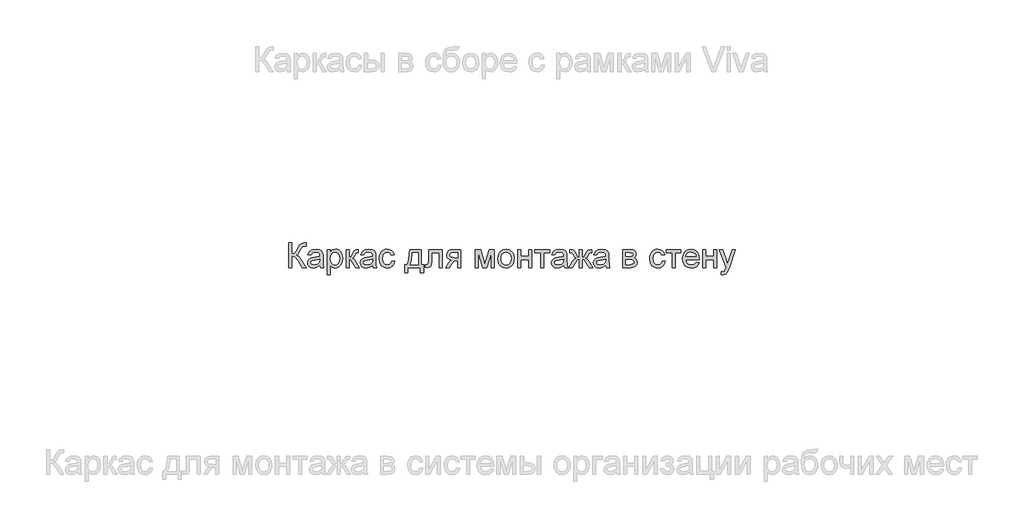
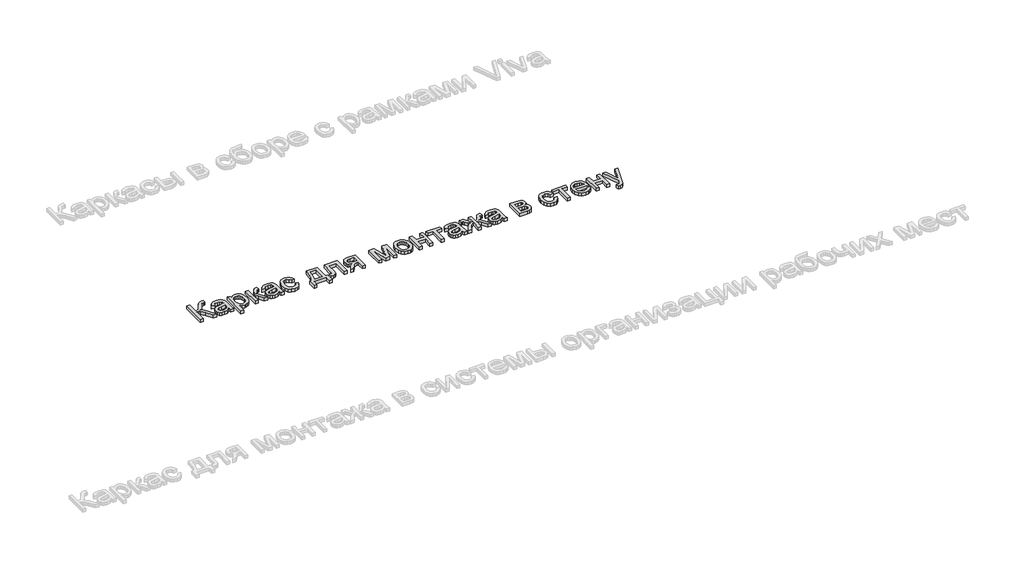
# One storey, part 46 of 48: 1 proxy.
"""IFC4 building model written with IfcOpenShell, lengths in millimetres."""

from ifc_helpers import new_model, si_unit, origin, origin_with_axes, place, context, project, spatial, polyline, outline, extrude, element, save

model = new_model("IFC4")

# Units and contexts
model_context = context("Model", 3, world=origin())
ifc_project = project(units=[si_unit("LENGTHUNIT", "METRE", prefix="MILLI")], contexts=[model_context])

# Site, building, storey
site = spatial("IfcSite", under=ifc_project)
building = spatial("IfcBuilding", under=site)
storey = spatial("IfcBuildingStorey", under=building, Name="Этаж 01", Elevation=0.0)

# Proxy
placement = place(None, origin())
element("IfcBuildingElementProxy", 1, Name="150 мм Arial", ObjectType="150 мм Arial", at=placement, inside=storey, context=model_context, shape_type="SweptSolid", body=[
    extrude(outline(polyline([(71634.1656145, 2806.4874824), (71653.0011727, 2806.4874824), (71653.0011727, 2740.5630288), (71665.7528823, 2741.8092291), (71674.0624169, 2745.5478299), (71688.7593026, 2770.7661406), (71699.151969, 2791.8273849), (71710.9241928, 2802.2568394), (71727.7547941, 2806.4874824), (71740.1156291, 2806.2667532), (71740.1156291, 2787.431195), (71735.9585626, 2787.5415596), (71731.8014961, 2787.6519242), (71717.0862162, 2783.1269757), (71705.9026036, 2763.7395945), (71692.5668813, 2740.1215704), (71679.5622527, 2732.3224721), (71694.1027886, 2723.8060039), (71708.4409894, 2706.0556977), (71740.1156291, 2655.8030171), (71718.2634386, 2655.8030171), (71691.4816294, 2698.2565994), (71672.6276771, 2720.4214896), (71663.9226694, 2724.9326426), (71653.0011727, 2726.4363602), (71653.0011727, 2655.8030171), (71634.1656145, 2655.8030171), (71634.1656145, 2806.4874824)])), origin_with_axes(), (0.0, 0.0, 1.0), 20.0),
    extrude(outline(polyline([(71824.8756408, 2669.9296858), (71806.6102998, 2657.1641805), (71786.4319723, 2653.4485724), (71770.6912215, 2655.6834555), (71759.079946, 2662.3881049), (71751.9200427, 2672.5692391), (71749.5334082, 2685.2335768), (71753.1386518, 2700.1327976), (71762.6116132, 2710.9485282), (71775.8001827, 2717.1289457), (71792.0973551, 2719.9616371), (71824.7652762, 2726.4363602), (71824.8756408, 2730.630215), (71823.5788568, 2739.0363185), (71819.6885047, 2744.5361544), (71810.9880955, 2748.6196445), (71798.8663838, 2749.9808079), (71779.8100964, 2746.3571703), (71770.7234111, 2733.4996945), (71751.887853, 2735.8541393), (71760.0364392, 2754.248239), (71776.4439762, 2765.0271815), (71801.2944049, 2768.8163661), (71824.1214827, 2765.4686399), (71837.0157467, 2757.0625363), (71842.791494, 2744.278637), (71843.711199, 2727.7975236), (71843.711199, 2704.3634405), (71844.6676922, 2671.640337), (71848.4200885, 2655.8030171), (71829.5845304, 2655.8030171), (71824.8756408, 2669.9296858)]), holes=[polyline([(71824.8756408, 2707.6008021), (71794.488588, 2701.8250547), (71778.2833861, 2698.7716342), (71770.9441403, 2693.8052272), (71768.3689664, 2686.5579519), (71773.9791668, 2676.3676207), (71790.4418861, 2672.2841305), (71809.4981734, 2676.790685), (71821.7854321, 2687.6983861), (71824.7652762, 2702.2665131), (71824.8756408, 2707.6008021)])]), origin_with_axes(), (0.0, 0.0, 1.0), 20.0),
    extrude(outline(polyline([(71869.6100914, 2613.4230113), (71869.6100914, 2766.4619213), (71888.4456496, 2766.4619213), (71888.4456496, 2747.9942451), (71901.4686722, 2763.6108358), (71919.0534316, 2768.8163661), (71931.7913457, 2766.9953502), (71942.9289731, 2761.5323026), (71951.9972643, 2752.758317), (71958.5271697, 2741.0044872), (71963.7878822, 2711.9785978), (71962.3025587, 2695.8699649), (71957.846588, 2681.4627863), (71950.5625245, 2669.4882274), (71940.5929224, 2660.6774536), (71928.9816469, 2655.2557927), (71916.7725632, 2653.4485724), (71900.3834203, 2658.2862206), (71888.4456496, 2670.5182969), (71888.4456496, 2613.4230113), (71869.6100914, 2613.4230113)]), holes=[polyline([(71888.4456496, 2710.2495524), (71890.4827961, 2693.3637688), (71896.5942358, 2681.5547568), (71905.6119432, 2674.6017871), (71916.367893, 2672.2841305), (71927.2985868, 2674.6845605), (71936.5462205, 2681.8858506), (71942.8507982, 2694.127124), (71944.9523241, 2711.647504), (71942.9013819, 2728.4413171), (71936.7485556, 2740.415876), (71927.7446437, 2747.5895749), (71917.1404452, 2749.9808079), (71906.49486, 2747.4378236), (71897.1460588, 2739.8088707), (71890.6207519, 2727.3330726), (71888.4456496, 2710.2495524)])]), origin_with_axes(), (0.0, 0.0, 1.0), 20.0),
    extrude(outline(polyline([(71984.9778851, 2766.4619213), (72003.8134433, 2766.4619213), (72003.8134433, 2719.3730259), (72016.4317957, 2722.7575403), (72026.7692798, 2742.4760152), (72035.3593244, 2759.4905575), (72042.9376935, 2765.0271815), (72056.7148742, 2766.4619213), (72060.3201177, 2766.4619213), (72060.3201177, 2747.5159985), (72055.2433462, 2747.6263631), (72046.0462963, 2745.6398004), (72039.5715732, 2733.2421771), (72031.97481, 2719.8328784), (72021.3246263, 2713.2661848), (72033.2072147, 2705.936136), (72044.869074, 2690.4942893), (72065.0290073, 2655.8030171), (72043.6182752, 2655.8030171), (72023.863012, 2689.7585253), (72013.9301982, 2704.1243172), (72003.8134433, 2707.6008021), (72003.8134433, 2655.8030171), (71984.9778851, 2655.8030171), (71984.9778851, 2766.4619213)])), origin_with_axes(), (0.0, 0.0, 1.0), 20.0),
    extrude(outline(polyline([(72147.4345742, 2669.9296858), (72129.1692331, 2657.1641805), (72108.9909057, 2653.4485724), (72093.2501548, 2655.6834555), (72081.6388794, 2662.3881049), (72074.478976, 2672.5692391), (72072.0923416, 2685.2335768), (72075.6975851, 2700.1327976), (72085.1705465, 2710.9485282), (72098.359116, 2717.1289457), (72114.6562884, 2719.9616371), (72147.3242096, 2726.4363602), (72147.4345742, 2730.630215), (72146.1377902, 2739.0363185), (72142.2474381, 2744.5361544), (72133.5470289, 2748.6196445), (72121.4253171, 2749.9808079), (72102.3690298, 2746.3571703), (72093.2823445, 2733.4996945), (72074.4467864, 2735.8541393), (72082.5953726, 2754.248239), (72099.0029095, 2765.0271815), (72123.8533383, 2768.8163661), (72146.6804161, 2765.4686399), (72159.57468, 2757.0625363), (72165.3504274, 2744.278637), (72166.2701324, 2727.7975236), (72166.2701324, 2704.3634405), (72167.2266255, 2671.640337), (72170.9790219, 2655.8030171), (72152.1434637, 2655.8030171), (72147.4345742, 2669.9296858)]), holes=[polyline([(72147.4345742, 2707.6008021), (72117.0475214, 2701.8250547), (72100.8423195, 2698.7716342), (72093.5030737, 2693.8052272), (72090.9278997, 2686.5579519), (72096.5381002, 2676.3676207), (72113.0008195, 2672.2841305), (72132.0571068, 2676.790685), (72144.3443654, 2687.6983861), (72147.3242096, 2702.2665131), (72147.4345742, 2707.6008021)])]), origin_with_axes(), (0.0, 0.0, 1.0), 20.0),
    extrude(outline(polyline([(72262.8023679, 2695.8285782), (72281.637926, 2693.4741334), (72276.3864106, 2676.7217071), (72266.517976, 2664.0619679), (72252.9615245, 2656.1019213), (72236.645958, 2653.4485724), (72216.6101849, 2657.1503849), (72200.9430104, 2668.2558227), (72190.8308541, 2686.2774419), (72187.4601353, 2710.727799), (72188.8994736, 2727.4894224), (72193.2174885, 2742.0161627), (72200.4831579, 2753.7469998), (72210.7654597, 2762.1209137), (72223.0665139, 2767.142503), (72236.3884406, 2768.8163661), (72252.3039355, 2766.5171036), (72265.028054, 2759.6193162), (72274.156126, 2748.4908858), (72279.2834813, 2733.4996945), (72260.4479231, 2731.1452498), (72251.7107257, 2745.2535243), (72236.5355934, 2749.9808079), (72224.3632979, 2747.6539543), (72214.701797, 2740.6733934), (72208.3972193, 2728.6620463), (72206.2956934, 2711.2428338), (72208.3512341, 2693.5890966), (72214.517856, 2681.5363627), (72224.004613, 2674.5971886), (72236.0205586, 2672.2841305), (72245.77403, 2673.7280674), (72253.7708649, 2678.0598778), (72259.587999, 2685.3899266), (72262.8023679, 2695.8285782)])), origin_with_axes(), (0.0, 0.0, 1.0), 20.0),
    extrude(outline(polyline([(72373.461272, 2766.4619213), (72444.0946151, 2766.4619213), (72444.0946151, 2674.6385753), (72458.2212837, 2674.6385753), (72458.2212837, 2625.1952351), (72439.3857256, 2625.1952351), (72439.3857256, 2655.8030171), (72361.6890482, 2655.8030171), (72361.6890482, 2625.1952351), (72342.85349, 2625.1952351), (72342.85349, 2674.6385753), (72354.6257139, 2674.6385753), (72363.1835688, 2690.1034147), (72369.1754468, 2710.5622521), (72373.461272, 2766.4619213)]), holes=[polyline([(72389.9423854, 2747.6263631), (72385.5278015, 2704.7129284), (72375.8157168, 2674.6385753), (72425.259057, 2674.6385753), (72425.259057, 2747.6263631), (72389.9423854, 2747.6263631)])]), origin_with_axes(), (0.0, 0.0, 1.0), 20.0),
    extrude(outline(polyline([(72488.8290657, 2766.4619213), (72573.5890774, 2766.4619213), (72573.5890774, 2655.9133817), (72554.7535193, 2655.9133817), (72554.7535193, 2747.6263631), (72507.6646239, 2747.6263631), (72507.6646239, 2694.8352968), (72506.395431, 2670.4815087), (72499.4240672, 2660.199207), (72482.9429538, 2655.8030171), (72467.6390628, 2656.7595103), (72467.6390628, 2674.6385753), (72476.0635605, 2674.6385753), (72484.5800287, 2675.7974036), (72487.9829371, 2679.4762235), (72488.8290657, 2695.9021546), (72488.8290657, 2766.4619213)])), origin_with_axes(), (0.0, 0.0, 1.0), 20.0),
    extrude(outline(polyline([(72686.6024263, 2766.4619213), (72686.6024263, 2655.8030171), (72667.7668682, 2655.8030171), (72667.7668682, 2698.183023), (72657.5029605, 2698.183023), (72643.5234447, 2695.79179), (72630.3900575, 2679.7153468), (72615.3804721, 2655.8030171), (72593.601858, 2655.8030171), (72612.5109925, 2686.0429171), (72620.8619138, 2696.895436), (72628.5506475, 2701.7146901), (72615.6747777, 2705.6602245), (72606.6248806, 2713.1558202), (72601.2721976, 2723.1254223), (72599.4879699, 2734.4929759), (72601.9251881, 2747.3872398), (72609.2368428, 2757.5959652), (72621.1654164, 2764.2454323), (72637.4533918, 2766.4619213), (72686.6024263, 2766.4619213)]), holes=[polyline([(72667.7668682, 2747.6263631), (72642.9348335, 2747.6263631), (72630.1095475, 2746.5365127), (72622.8300825, 2743.2669615), (72618.323528, 2733.0582361), (72619.9835955, 2725.8799387), (72624.963798, 2720.8997362), (72648.4898516, 2717.0185811), (72667.7668682, 2717.0185811), (72667.7668682, 2747.6263631)])]), origin_with_axes(), (0.0, 0.0, 1.0), 20.0),
    extrude(outline(polyline([(72773.7168828, 2766.4619213), (72806.1272866, 2766.4619213), (72831.106474, 2677.8759369), (72858.0354361, 2766.4619213), (72889.0846765, 2766.4619213), (72889.0846765, 2655.8030171), (72870.2491183, 2655.8030171), (72870.2491183, 2744.9040364), (72843.1730035, 2655.8030171), (72818.4513334, 2655.8030171), (72792.5524409, 2749.1714675), (72792.5524409, 2655.8030171), (72773.7168828, 2655.8030171), (72773.7168828, 2766.4619213)])), origin_with_axes(), (0.0, 0.0, 1.0), 20.0),
    extrude(outline(polyline([(72912.6291242, 2711.1324692), (72916.7034173, 2737.8131109), (72928.9262966, 2756.5658956), (72944.0278525, 2765.7537484), (72962.1092525, 2768.8163661), (72981.8967053, 2765.0869623), (72997.7018356, 2753.8987512), (73008.0623122, 2736.1346493), (73011.5158045, 2712.6775736), (73009.9890942, 2693.6488774), (73005.4089634, 2679.1635238), (72997.9087692, 2668.3156035), (72987.6218689, 2660.199207), (72975.4035881, 2655.136231), (72962.1092525, 2653.4485724), (72942.0826764, 2657.1641805), (72926.2959403, 2668.311005), (72916.0458282, 2686.4475873), (72912.6291242, 2711.1324692)]), holes=[polyline([(72931.4646823, 2711.1692574), (72933.6443831, 2694.1225255), (72940.1834856, 2681.9778211), (72950.024329, 2674.7075532), (72962.1092525, 2672.2841305), (72974.1389938, 2674.7213487), (72983.961443, 2682.0330034), (72990.5005455, 2694.3386561), (72992.6802463, 2711.7578686), (72990.4867499, 2728.3079599), (72983.9062607, 2740.2871173), (72974.0700159, 2747.5573853), (72962.1092525, 2749.9808079), (72950.024329, 2747.5665823), (72940.1834856, 2740.3239055), (72933.6443831, 2728.2067923), (72931.4646823, 2711.1692574)])]), origin_with_axes(), (0.0, 0.0, 1.0), 20.0),
    extrude(outline(polyline([(73032.7058074, 2766.4619213), (73051.5413656, 2766.4619213), (73051.5413656, 2724.0819154), (73100.9847057, 2724.0819154), (73100.9847057, 2766.4619213), (73119.8202639, 2766.4619213), (73119.8202639, 2655.8030171), (73100.9847057, 2655.8030171), (73100.9847057, 2705.2463573), (73051.5413656, 2705.2463573), (73051.5413656, 2655.8030171), (73032.7058074, 2655.8030171), (73032.7058074, 2766.4619213)])), origin_with_axes(), (0.0, 0.0, 1.0), 20.0),
    extrude(outline(polyline([(73138.655822, 2766.4619213), (73228.1247232, 2766.4619213), (73228.1247232, 2747.6263631), (73192.8080517, 2747.6263631), (73192.8080517, 2655.8030171), (73173.9724935, 2655.8030171), (73173.9724935, 2747.6263631), (73138.655822, 2747.6263631), (73138.655822, 2766.4619213)])), origin_with_axes(), (0.0, 0.0, 1.0), 20.0),
    extrude(outline(polyline([(73315.2391797, 2669.9296858), (73296.9738386, 2657.1641805), (73276.7955112, 2653.4485724), (73261.0547603, 2655.6834555), (73249.4434849, 2662.3881049), (73242.2835815, 2672.5692391), (73239.8969471, 2685.2335768), (73243.5021906, 2700.1327976), (73252.975152, 2710.9485282), (73266.1637215, 2717.1289457), (73282.4608939, 2719.9616371), (73315.1288151, 2726.4363602), (73315.2391797, 2730.630215), (73313.9423957, 2739.0363185), (73310.0520436, 2744.5361544), (73301.3516344, 2748.6196445), (73289.2299226, 2749.9808079), (73270.1736353, 2746.3571703), (73261.08695, 2733.4996945), (73242.2513919, 2735.8541393), (73250.399978, 2754.248239), (73266.807515, 2765.0271815), (73291.6579438, 2768.8163661), (73314.4850216, 2765.4686399), (73327.3792855, 2757.0625363), (73333.1550329, 2744.278637), (73334.0747378, 2727.7975236), (73334.0747378, 2704.3634405), (73335.031231, 2671.640337), (73338.7836274, 2655.8030171), (73319.9480692, 2655.8030171), (73315.2391797, 2669.9296858)]), holes=[polyline([(73315.2391797, 2707.6008021), (73284.8521269, 2701.8250547), (73268.646925, 2698.7716342), (73261.3076792, 2693.8052272), (73258.7325052, 2686.5579519), (73264.3427057, 2676.3676207), (73280.8054249, 2672.2841305), (73299.8617123, 2676.790685), (73312.1489709, 2687.6983861), (73315.1288151, 2702.2665131), (73315.2391797, 2707.6008021)])]), origin_with_axes(), (0.0, 0.0, 1.0), 20.0),
    extrude(outline(polyline([(73428.2525286, 2766.4619213), (73428.2525286, 2719.3730259), (73439.2338062, 2723.254181), (73449.6264725, 2743.3957202), (73462.0240958, 2762.7095249), (73479.6456433, 2766.4619213), (73487.1136478, 2766.4619213), (73487.1136478, 2747.5159985), (73481.9265117, 2747.6263631), (73472.214427, 2745.6765886), (73465.4821865, 2733.4629063), (73457.6646941, 2720.0720017), (73446.4994756, 2713.2661848), (73458.8143254, 2705.936136), (73470.8164755, 2690.4942893), (73491.8225374, 2655.8030171), (73470.2278643, 2655.8030171), (73449.5528961, 2690.0160427), (73439.013077, 2704.2346818), (73428.2525286, 2707.6008021), (73428.2525286, 2655.8030171), (73409.4169705, 2655.8030171), (73409.4169705, 2707.6008021), (73398.6932103, 2704.3082582), (73388.0798147, 2690.0896191), (73367.4048466, 2655.8030171), (73345.8469617, 2655.8030171), (73366.7794472, 2690.4942893), (73378.8735678, 2705.936136), (73391.2435999, 2713.2661848), (73379.3977997, 2720.7709775), (73369.2442566, 2740.0847822), (73364.2778497, 2746.4491408), (73356.1476576, 2747.7367277), (73350.5558512, 2747.6263631), (73350.5558512, 2766.4619213), (73353.3885426, 2766.4619213), (73369.9064442, 2765.2846989), (73378.4780947, 2760.2815038), (73388.0798147, 2743.3957202), (73398.3621165, 2723.3829397), (73409.4169705, 2719.3730259), (73409.4169705, 2766.4619213), (73428.2525286, 2766.4619213)])), origin_with_axes(), (0.0, 0.0, 1.0), 20.0),
    extrude(outline(polyline([(73571.8736595, 2669.9296858), (73553.6083185, 2657.1641805), (73533.429991, 2653.4485724), (73517.6892402, 2655.6834555), (73506.0779647, 2662.3881049), (73498.9180614, 2672.5692391), (73496.5314269, 2685.2335768), (73500.1366705, 2700.1327976), (73509.6096318, 2710.9485282), (73522.7982014, 2717.1289457), (73539.0953738, 2719.9616371), (73571.7632949, 2726.4363602), (73571.8736595, 2730.630215), (73570.5768755, 2739.0363185), (73566.6865234, 2744.5361544), (73557.9861142, 2748.6196445), (73545.8644025, 2749.9808079), (73526.8081151, 2746.3571703), (73517.7214298, 2733.4996945), (73498.8858717, 2735.8541393), (73507.0344579, 2754.248239), (73523.4419949, 2765.0271815), (73548.2924236, 2768.8163661), (73571.1195014, 2765.4686399), (73584.0137654, 2757.0625363), (73589.7895127, 2744.278637), (73590.7092177, 2727.7975236), (73590.7092177, 2704.3634405), (73591.6657109, 2671.640337), (73595.4181072, 2655.8030171), (73576.5825491, 2655.8030171), (73571.8736595, 2669.9296858)]), holes=[polyline([(73571.8736595, 2707.6008021), (73541.4866067, 2701.8250547), (73525.2814048, 2698.7716342), (73517.942159, 2693.8052272), (73515.3669851, 2686.5579519), (73520.9771855, 2676.3676207), (73537.4399048, 2672.2841305), (73556.4961921, 2676.790685), (73568.7834508, 2687.6983861), (73571.7632949, 2702.2665131), (73571.8736595, 2707.6008021)])]), origin_with_axes(), (0.0, 0.0, 1.0), 20.0),
    extrude(outline(polyline([(73675.4692294, 2766.4619213), (73716.9663184, 2766.4619213), (73739.7198198, 2763.9419296), (73752.5221133, 2754.7080915), (73757.8747963, 2738.6132543), (73754.6374347, 2725.5350493), (73744.8885619, 2716.2092407), (73757.5437025, 2706.0005154), (73762.5836858, 2688.2502091), (73759.3923095, 2673.8936143), (73751.8047434, 2663.7860564), (73739.7933962, 2657.798777), (73723.3306769, 2655.8030171), (73675.4692294, 2655.8030171), (73675.4692294, 2766.4619213)]), holes=[polyline([(73694.3047875, 2724.0819154), (73712.9196165, 2724.0819154), (73728.2786898, 2725.0384086), (73735.7466943, 2728.8643814), (73739.0392381, 2735.7805629), (73737.5953013, 2741.3999604), (73733.2634908, 2745.014401), (73713.5082277, 2747.6263631), (73694.3047875, 2747.6263631), (73694.3047875, 2724.0819154)]), polyline([(73694.3047875, 2674.6385753), (73717.4077768, 2674.6385753), (73737.898804, 2678.0414837), (73742.1386439, 2682.6813954), (73743.7481277, 2689.7953135), (73740.5291602, 2698.8636047), (73732.1414507, 2704.1427113), (73715.5683668, 2705.2463573), (73694.3047875, 2705.2463573), (73694.3047875, 2674.6385753)])]), origin_with_axes(), (0.0, 0.0, 1.0), 20.0),
    extrude(outline(polyline([(73915.6225958, 2695.8285782), (73934.458154, 2693.4741334), (73929.2066385, 2676.7217071), (73919.338204, 2664.0619679), (73905.7817525, 2656.1019213), (73889.466186, 2653.4485724), (73869.4304128, 2657.1503849), (73853.7632383, 2668.2558227), (73843.651082, 2686.2774419), (73840.2803632, 2710.727799), (73841.7197015, 2727.4894224), (73846.0377164, 2742.0161627), (73853.3033858, 2753.7469998), (73863.5856876, 2762.1209137), (73875.8867418, 2767.142503), (73889.2086686, 2768.8163661), (73905.1241634, 2766.5171036), (73917.8482819, 2759.6193162), (73926.9763539, 2748.4908858), (73932.1037092, 2733.4996945), (73913.2681511, 2731.1452498), (73904.5309537, 2745.2535243), (73889.3558214, 2749.9808079), (73877.1835259, 2747.6539543), (73867.522025, 2740.6733934), (73861.2174473, 2728.6620463), (73859.1159214, 2711.2428338), (73861.171462, 2693.5890966), (73867.338084, 2681.5363627), (73876.8248409, 2674.5971886), (73888.8407866, 2672.2841305), (73898.594258, 2673.7280674), (73906.5910928, 2678.0598778), (73912.4082269, 2685.3899266), (73915.6225958, 2695.8285782)])), origin_with_axes(), (0.0, 0.0, 1.0), 20.0),
    extrude(outline(polyline([(73941.5214883, 2766.4619213), (74030.9903895, 2766.4619213), (74030.9903895, 2747.6263631), (73995.673718, 2747.6263631), (73995.673718, 2655.8030171), (73976.8381598, 2655.8030171), (73976.8381598, 2747.6263631), (73941.5214883, 2747.6263631), (73941.5214883, 2766.4619213)])), origin_with_axes(), (0.0, 0.0, 1.0), 20.0),
    extrude(outline(polyline([(74124.9474511, 2688.7652439), (74143.4151272, 2686.4107991), (74136.7610616, 2672.4956627), (74126.1430676, 2662.0937993), (74111.8002683, 2655.6098791), (74093.9717871, 2653.4485724), (74071.8712762, 2657.1779761), (74054.865931, 2668.3661873), (74044.0226092, 2686.286639), (74040.4081686, 2710.2127642), (74044.0593974, 2734.9436314), (74055.0130838, 2753.4388987), (74071.7885028, 2764.9719992), (74092.9049293, 2768.8163661), (74113.3637668, 2764.9811963), (74129.7115229, 2753.4756869), (74140.4306846, 2735.0172078), (74144.0037384, 2710.3231288), (74143.8933738, 2705.2463573), (74059.2437267, 2705.2463573), (74062.5040809, 2691.1472798), (74070.0778515, 2680.7822046), (74081.0085453, 2674.408649), (74094.3396691, 2672.2841305), (74112.8073452, 2676.2204679), (74124.9474511, 2688.7652439)]), holes=[polyline([(74059.2437267, 2724.0819154), (74125.1681803, 2724.0819154), (74122.6205975, 2734.0331234), (74117.6265994, 2741.15164), (74106.6453218, 2747.7735159), (74092.8313529, 2749.9808079), (74080.1348255, 2748.2195729), (74069.6363931, 2742.9358677), (74062.338534, 2734.6999095), (74059.2437267, 2724.0819154)])]), origin_with_axes(), (0.0, 0.0, 1.0), 20.0),
    extrude(outline(polyline([(74162.8392966, 2766.4619213), (74181.6748547, 2766.4619213), (74181.6748547, 2724.0819154), (74231.1181949, 2724.0819154), (74231.1181949, 2766.4619213), (74249.953753, 2766.4619213), (74249.953753, 2655.8030171), (74231.1181949, 2655.8030171), (74231.1181949, 2705.2463573), (74181.6748547, 2705.2463573), (74181.6748547, 2655.8030171), (74162.8392966, 2655.8030171), (74162.8392966, 2766.4619213)])), origin_with_axes(), (0.0, 0.0, 1.0), 20.0),
    extrude(outline(polyline([(74278.2070903, 2613.4230113), (74275.8526455, 2631.5595937), (74285.4175774, 2629.9041247), (74294.3571099, 2631.982658), (74299.8385516, 2637.7767994), (74304.9888995, 2651.6459506), (74306.4604275, 2656.2076873), (74266.4348664, 2766.4619213), (74286.3004942, 2766.4619213), (74307.5272853, 2705.0256281), (74314.9217134, 2680.4511108), (74322.3161415, 2702.1561485), (74344.1315438, 2766.4619213), (74363.8500187, 2766.4619213), (74325.3327739, 2653.1542668), (74315.3263836, 2628.5797495), (74304.4002883, 2615.2992095), (74289.7217967, 2611.0685665), (74278.2070903, 2613.4230113)])), origin_with_axes(), (0.0, 0.0, 1.0), 20.0),
])

save(model, "model.ifc")
